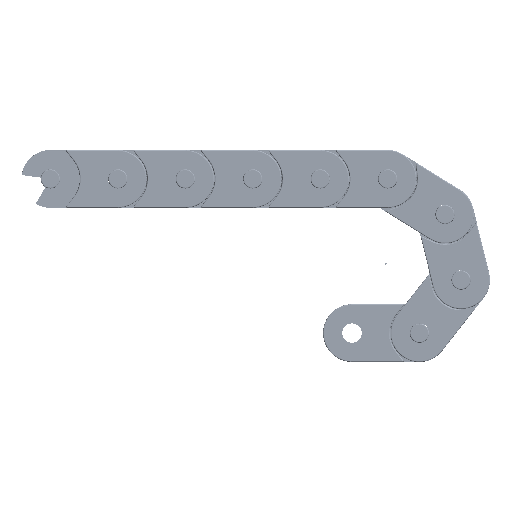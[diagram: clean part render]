
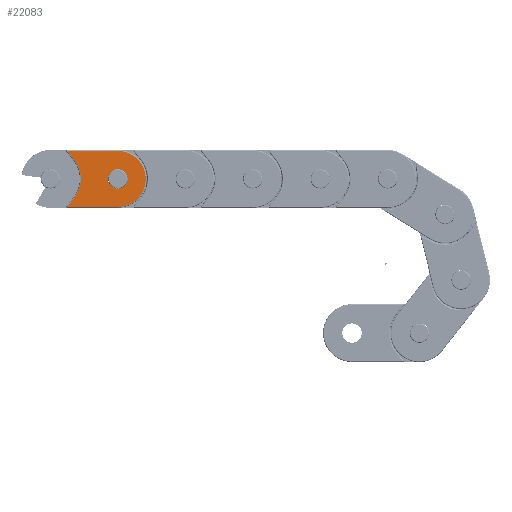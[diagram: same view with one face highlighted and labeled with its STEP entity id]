
A CAD part, left-side view. The second image highlights one B-rep face of the part: STEP entity #22083.
In plain terms, the highlighted free-form (B-spline) face has degree [1, 1] with [2, 2] control points.
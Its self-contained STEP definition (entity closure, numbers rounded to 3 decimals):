
#22015=CARTESIAN_POINT('',(-102.617,-6.606,-66.058));
#22016=CARTESIAN_POINT('',(-58.059,-2.458,-66.058));
#22017=CARTESIAN_POINT('',(-99.36,-41.59,-66.058));
#22018=CARTESIAN_POINT('',(-54.802,-37.442,-66.058));
#22019=B_SPLINE_SURFACE_WITH_KNOTS('',1,1,((#22015,#22017),(#22016,#22018)),.UNSPECIFIED.,.F.,.F.,.U.,(2,2),(2,2),(0.0,44.751),(0.0,35.135),.UNSPECIFIED.);
#22020=CARTESIAN_POINT('',(-57.698,-35.212,-66.058));
#22021=VERTEX_POINT('',#22020);
#22022=CARTESIAN_POINT('',(-83.877,-37.649,-66.058));
#22023=VERTEX_POINT('',#22022);
#22024=CARTESIAN_POINT('',(-57.698,-35.212,-66.058));
#22025=DIRECTION('',(-0.996,-0.093,0.));
#22026=VECTOR('',#22025,26.293);
#22027=LINE('',#22024,#22026);
#22028=EDGE_CURVE('',#22021,#22023,#22027,.T.);
#22029=ORIENTED_EDGE('',*,*,#22028,.T.);
#22030=CARTESIAN_POINT('',(-86.566,-8.774,-66.058));
#22031=VERTEX_POINT('',#22030);
#22032=CARTESIAN_POINT('',(-85.221,-23.211,-66.058));
#22033=DIRECTION('',(0.,0.,-1.));
#22034=DIRECTION('',(-0.996,-0.093,0.));
#22035=AXIS2_PLACEMENT_3D('',#22032,#22033,#22034);
#22036=CIRCLE('',#22035,14.5);
#22037=EDGE_CURVE('',#22023,#22031,#22036,.T.);
#22038=ORIENTED_EDGE('',*,*,#22037,.T.);
#22039=CARTESIAN_POINT('',(-60.386,-6.336,-66.058));
#22040=VERTEX_POINT('',#22039);
#22041=CARTESIAN_POINT('',(-86.566,-8.774,-66.058));
#22042=DIRECTION('',(0.996,0.093,0.));
#22043=VECTOR('',#22042,26.293);
#22044=LINE('',#22041,#22043);
#22045=EDGE_CURVE('',#22031,#22040,#22044,.T.);
#22046=ORIENTED_EDGE('',*,*,#22045,.T.);
#22047=CARTESIAN_POINT('',(-63.654,-11.41,-66.058));
#22048=VERTEX_POINT('',#22047);
#22049=CARTESIAN_POINT('',(-60.386,-6.336,-66.058));
#22050=DIRECTION('',(-0.542,-0.841,0.0));
#22051=VECTOR('',#22050,6.035);
#22052=LINE('',#22049,#22051);
#22053=EDGE_CURVE('',#22040,#22048,#22052,.T.);
#22054=ORIENTED_EDGE('',*,*,#22053,.T.);
#22055=CARTESIAN_POINT('',(-61.847,-30.829,-66.058));
#22056=VERTEX_POINT('',#22055);
#22057=CARTESIAN_POINT('',(-50.372,-19.967,-66.058));
#22058=DIRECTION('',(0.,0.,1.0));
#22059=DIRECTION('',(-0.996,-0.093,0.));
#22060=AXIS2_PLACEMENT_3D('',#22057,#22058,#22059);
#22061=CIRCLE('',#22060,15.8);
#22062=EDGE_CURVE('',#22048,#22056,#22061,.T.);
#22063=ORIENTED_EDGE('',*,*,#22062,.T.);
#22064=CARTESIAN_POINT('',(-61.847,-30.829,-66.058));
#22065=DIRECTION('',(0.687,-0.726,0.0));
#22066=VECTOR('',#22065,6.035);
#22067=LINE('',#22064,#22066);
#22068=EDGE_CURVE('',#22056,#22021,#22067,.T.);
#22069=ORIENTED_EDGE('',*,*,#22068,.T.);
#22070=EDGE_LOOP('',(#22029,#22038,#22046,#22054,#22063,#22069));
#22071=FACE_OUTER_BOUND('',#22070,.T.);
#22072=CARTESIAN_POINT('',(-80.193,-22.743,-66.058));
#22073=VERTEX_POINT('',#22072);
#22074=CARTESIAN_POINT('',(-85.221,-23.211,-66.058));
#22075=DIRECTION('',(0.,0.,-1.));
#22076=DIRECTION('',(-0.996,-0.093,0.));
#22077=AXIS2_PLACEMENT_3D('',#22074,#22075,#22076);
#22078=CIRCLE('',#22077,5.05);
#22079=EDGE_CURVE('',#22073,#22073,#22078,.T.);
#22080=ORIENTED_EDGE('',*,*,#22079,.F.);
#22081=EDGE_LOOP('',(#22080));
#22082=FACE_BOUND('',#22081,.T.);
#22083=ADVANCED_FACE('',(#22071,#22082),#22019,.T.);
